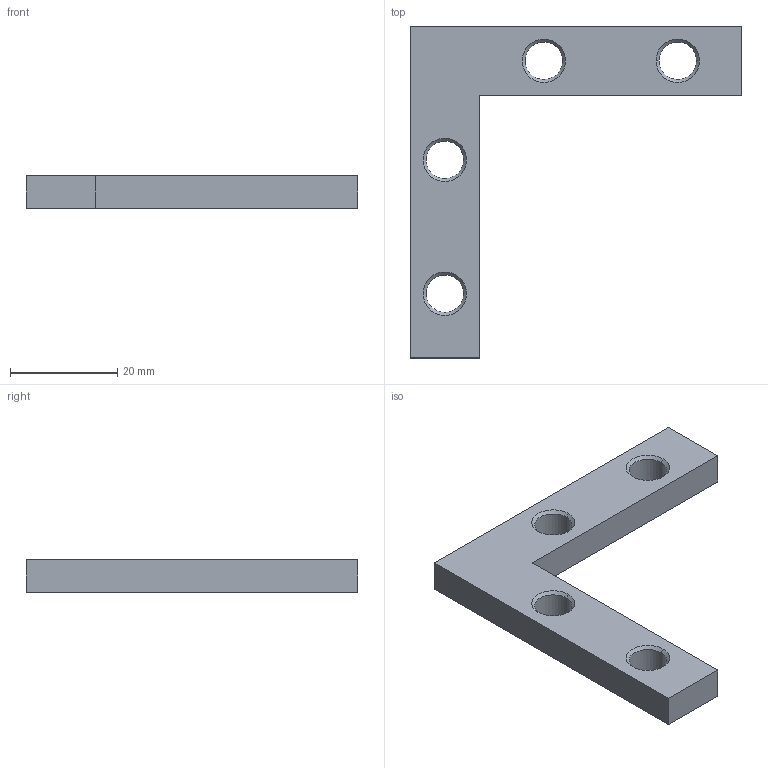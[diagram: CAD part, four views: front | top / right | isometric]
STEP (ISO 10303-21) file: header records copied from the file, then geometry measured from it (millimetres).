
FILE_DESCRIPTION (( 'STEP AP214' ), '1' );
FILE_NAME ('SF01020.step', '2024-12-03T16:29:30', ( '' ), ( '' ), 'SwSTEP 2.0', 'SolidWorks 2023', '' );
FILE_SCHEMA (( 'AUTOMOTIVE_DESIGN' ));
Length unit declared in the file: millimetre
Products named in the file (1): SF01020
Bounding box: 62 x 62 x 6 mm (x, y, z)
Volume: 7706.4 mm3; surface area: 4540.4 mm2
Topology: 1 solids, 1 shells, 32 faces, 74 edges, 44 vertices
Faces by surface type: cone 16, cylinder 8, plane 8
Entity records: 941 total; most frequent: DIRECTION 172, CARTESIAN_POINT 151, ORIENTED_EDGE 148, EDGE_CURVE 74, AXIS2_PLACEMENT_3D 65, VERTEX_POINT 44, LINE 42, VECTOR 42
